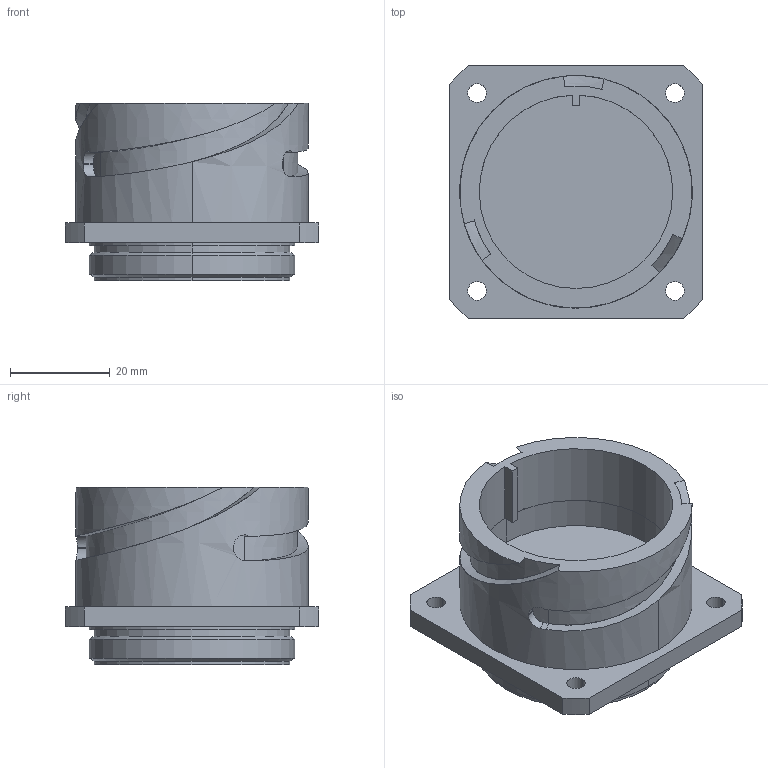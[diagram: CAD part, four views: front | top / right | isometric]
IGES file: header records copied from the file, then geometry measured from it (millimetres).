
Start section:  PTC IGES file: gt030_28_shell.igs
Global section: file name: gt030_28_shell.igs; native system: Creo Parametric by PTC Inc.; preprocessor: 2016260; author: t-nakamura; organization: Unknown; date: 20170622.204601; units: inch
Bounding box: 50.8 x 50.8 x 35.71 mm (x, y, z)
Surface area: 14362.3 mm2 (no closed solid volume)
Topology: 0 solids, 0 shells, 73 faces, 360 edges, 360 vertices
Faces by surface type: revolution 37, bspline 36
